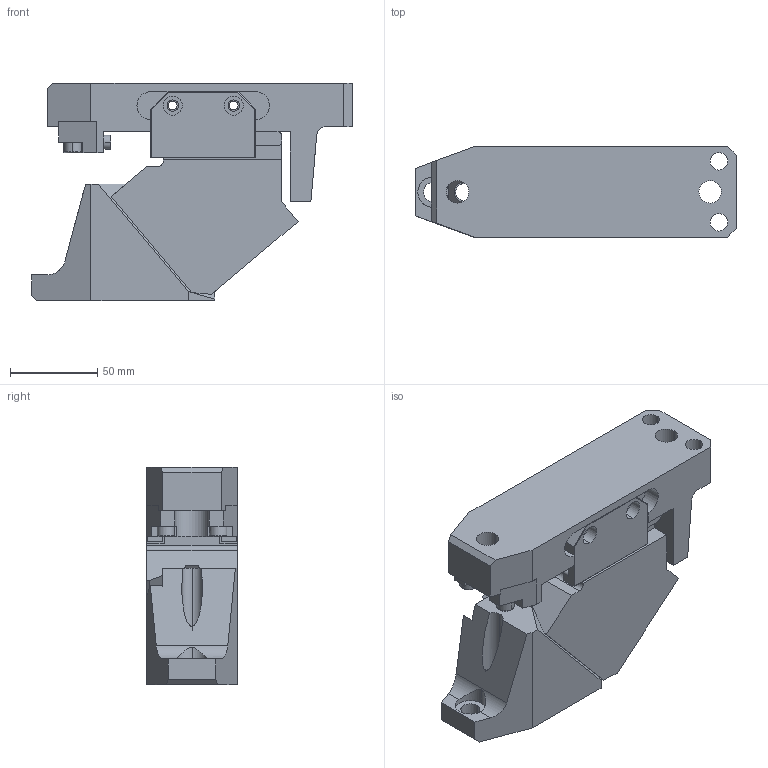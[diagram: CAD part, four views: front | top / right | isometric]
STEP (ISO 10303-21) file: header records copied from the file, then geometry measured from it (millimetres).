
FILE_DESCRIPTION (( 'STEP AP203' ), '1' );
FILE_NAME ('CLD052.50.step', '2014-05-05T08:34:43', ( '' ), ( '' ), 'SwSTEP 2.0', 'SolidWorks 2013', '' );
FILE_SCHEMA (( 'CONFIG_CONTROL_DESIGN' ));
Length unit declared in the file: millimetre
Products named in the file (4): CLD05250-01 CAM BASE; CLD05250-02 CAM SLIDER; CLD05250-03 CAM DRIVER; CLD052.50
Assembly tree (3 placements, depth 2):
  CLD052.50
    CLD05250-01 CAM BASE
    CLD05250-02 CAM SLIDER
    CLD05250-03 CAM DRIVER
Bounding box: 184 x 52 x 125 mm (x, y, z)
Volume: 681440.4 mm3; surface area: 116623.2 mm2
Topology: 3 solids, 7 shells, 361 faces, 934 edges, 593 vertices
Faces by surface type: plane 222, cylinder 112, cone 18, torus 9
Entity records: 11417 total; most frequent: CARTESIAN_POINT 2051, DIRECTION 1898, ORIENTED_EDGE 1848, EDGE_CURVE 924, AXIS2_PLACEMENT_3D 638, VECTOR 622, LINE 622, VERTEX_POINT 593
